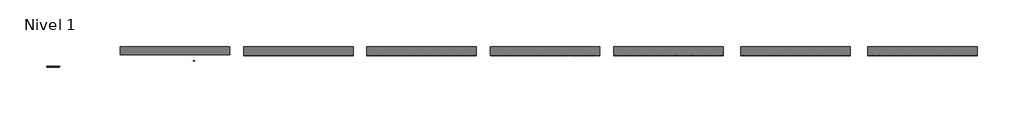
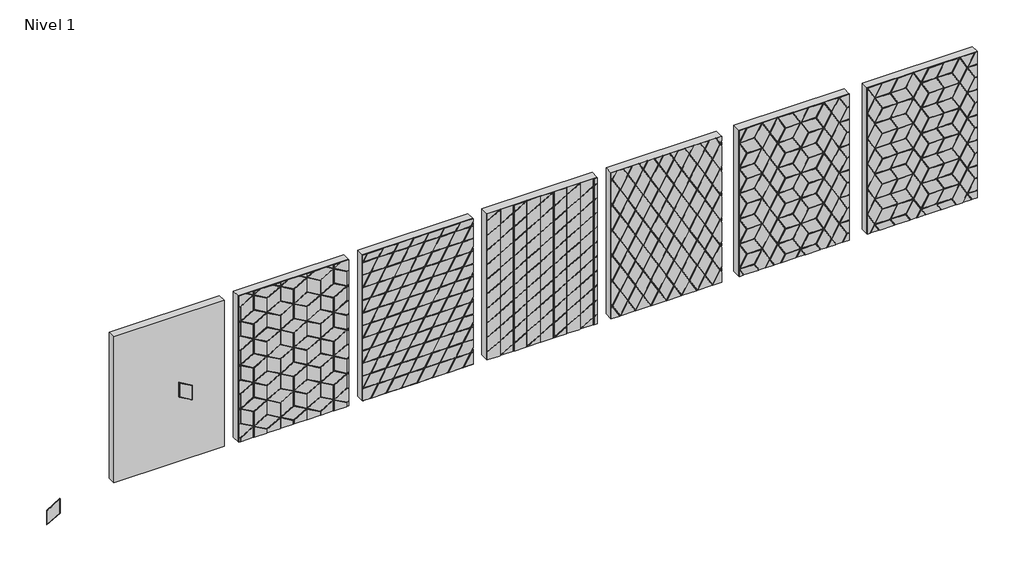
# One storey: 15 proxies.
"""IFC4 building model written with IfcOpenShell, lengths in millimetres."""

from ifc_helpers import new_model, si_unit, origin, place, context, project, spatial, transform, mapped, element, save
from components import generic_models_b56e176c, generic_models_d6408ce0, generic_models_3e0c5b4b, generic_models_ec62adf8, generic_models_64ce190c, generic_models_2b23b831, generic_models_af10a0f3, generic_models_e96d9af0, generic_models_ffa9f1a6, generic_models_63845ec4, generic_models_9c3d61d5, generic_models_e3781ae1, generic_models_b4bbd041, generic_models_f78b7b72, proxy_1_3dm_0daf05c3, proxy_2_3dm_ef0c58a9, proxy_3_3dm_4a09337f, proxy_4_3dm_49fde4f9, proxy_5_3dm_5162e69e, proxy_6_3dm_c16412cb, proxy_7_3dm_0c6f1c2f

model = new_model("IFC4")

# Units and contexts
model_context = context("Model", 3, world=origin())
ifc_project = project(units=[si_unit("LENGTHUNIT", "METRE", prefix="MILLI")], contexts=[model_context])

# Site, building, storey
site = spatial("IfcSite", under=ifc_project)
building = spatial("IfcBuilding", under=site)
storey = spatial("IfcBuildingStorey", under=building, Name="Nivel 1", Elevation=0.0)

# Proxies
placement = place(None, origin())
generic_models_shape = generic_models_b56e176c(model_context)
element("IfcBuildingElementProxy", 1, Name="Wall_Cissu 1.3dm", ObjectType="Wall_Cissu 1.3dm", at=placement, inside=storey, context=model_context, shape_type="MappedRepresentation", body=[
    mapped(generic_models_shape, transform((0.0, 0.0, 0.0), x_axis=(1.0, 0.0, 0.0), y_axis=(0.0, 1.0, 0.0), z_axis=(0.0, 0.0, 1.0))),
])
generic_models_2_shape = generic_models_d6408ce0(model_context)
element("IfcBuildingElementProxy", 2, Name="Wall_Cissu 2.3dm", ObjectType="Wall_Cissu 2.3dm", at=placement, inside=storey, context=model_context, shape_type="MappedRepresentation", body=[
    mapped(generic_models_2_shape, transform((0.0, 0.0, 0.0), x_axis=(1.0, 0.0, 0.0), y_axis=(0.0, 1.0, 0.0), z_axis=(0.0, 0.0, 1.0))),
])
generic_models_3_shape = generic_models_3e0c5b4b(model_context)
generic_models_4_shape = generic_models_ec62adf8(model_context)
element("IfcBuildingElementProxy", 3, Name="Wall_Cissu 4.3dm", ObjectType="Wall_Cissu 4.3dm", at=placement, inside=storey, context=model_context, shape_type="MappedRepresentation", body=[
    mapped(generic_models_3_shape, transform((0.0, 0.0, 0.0), x_axis=(1.0, 0.0, 0.0), y_axis=(0.0, 1.0, 0.0), z_axis=(0.0, 0.0, 1.0))),
    mapped(generic_models_4_shape, transform((0.0, 0.0, 0.0), x_axis=(1.0, 0.0, 0.0), y_axis=(0.0, 1.0, 0.0), z_axis=(0.0, 0.0, 1.0))),
])
generic_models_5_shape = generic_models_64ce190c(model_context)
generic_models_6_shape = generic_models_2b23b831(model_context)
element("IfcBuildingElementProxy", 4, Name="Wall_Cissu 5.3dm", ObjectType="Wall_Cissu 5.3dm", at=placement, inside=storey, context=model_context, shape_type="MappedRepresentation", body=[
    mapped(generic_models_5_shape, transform((0.0, 0.0, 0.0), x_axis=(1.0, 0.0, 0.0), y_axis=(0.0, 1.0, 0.0), z_axis=(0.0, 0.0, 1.0))),
    mapped(generic_models_6_shape, transform((0.0, 0.0, 0.0), x_axis=(1.0, 0.0, 0.0), y_axis=(0.0, 1.0, 0.0), z_axis=(0.0, 0.0, 1.0))),
])
generic_models_7_shape = generic_models_af10a0f3(model_context)
generic_models_8_shape = generic_models_e96d9af0(model_context)
element("IfcBuildingElementProxy", 5, Name="Wall_Cissu 6.3dm", ObjectType="Wall_Cissu 6.3dm", at=placement, inside=storey, context=model_context, shape_type="MappedRepresentation", body=[
    mapped(generic_models_7_shape, transform((0.0, 0.0, 0.0), x_axis=(1.0, 0.0, 0.0), y_axis=(0.0, 1.0, 0.0), z_axis=(0.0, 0.0, 1.0))),
    mapped(generic_models_8_shape, transform((0.0, 0.0, 0.0), x_axis=(1.0, 0.0, 0.0), y_axis=(0.0, 1.0, 0.0), z_axis=(0.0, 0.0, 1.0))),
])
generic_models_9_shape = generic_models_ffa9f1a6(model_context)
generic_models_10_shape = generic_models_63845ec4(model_context)
element("IfcBuildingElementProxy", 6, Name="Wall_Cissu 7.3dm", ObjectType="Wall_Cissu 7.3dm", at=placement, inside=storey, context=model_context, shape_type="MappedRepresentation", body=[
    mapped(generic_models_9_shape, transform((0.0, 0.0, 0.0), x_axis=(1.0, 0.0, 0.0), y_axis=(0.0, 1.0, 0.0), z_axis=(0.0, 0.0, 1.0))),
    mapped(generic_models_10_shape, transform((0.0, 0.0, 0.0), x_axis=(1.0, 0.0, 0.0), y_axis=(0.0, 1.0, 0.0), z_axis=(0.0, 0.0, 1.0))),
])
generic_models_11_shape = generic_models_9c3d61d5(model_context)
generic_models_12_shape = generic_models_e3781ae1(model_context)
element("IfcBuildingElementProxy", 7, Name="Wall_Cissu 8.3dm", ObjectType="Wall_Cissu 8.3dm", at=placement, inside=storey, context=model_context, shape_type="MappedRepresentation", body=[
    mapped(generic_models_11_shape, transform((0.0, 0.0, 0.0), x_axis=(1.0, 0.0, 0.0), y_axis=(0.0, 1.0, 0.0), z_axis=(0.0, 0.0, 1.0))),
    mapped(generic_models_12_shape, transform((0.0, 0.0, 0.0), x_axis=(1.0, 0.0, 0.0), y_axis=(0.0, 1.0, 0.0), z_axis=(0.0, 0.0, 1.0))),
])
generic_models_13_shape = generic_models_b4bbd041(model_context)
generic_models_14_shape = generic_models_f78b7b72(model_context)
element("IfcBuildingElementProxy", 8, Name="Wall_Cissu 9.3dm", ObjectType="Wall_Cissu 9.3dm", at=placement, inside=storey, context=model_context, shape_type="MappedRepresentation", body=[
    mapped(generic_models_13_shape, transform((0.0, 0.0, 0.0), x_axis=(1.0, 0.0, 0.0), y_axis=(0.0, 1.0, 0.0), z_axis=(0.0, 0.0, 1.0))),
    mapped(generic_models_14_shape, transform((0.0, 0.0, 0.0), x_axis=(1.0, 0.0, 0.0), y_axis=(0.0, 1.0, 0.0), z_axis=(0.0, 0.0, 1.0))),
])
proxy_1_3dm_shape = proxy_1_3dm_0daf05c3(model_context)
element("IfcBuildingElementProxy", 9, Name="1.3dm", ObjectType="1.3dm", at=placement, inside=storey, context=model_context, shape_type="MappedRepresentation", body=[
    mapped(proxy_1_3dm_shape, transform((0.0, 0.0, 0.0), x_axis=(1.0, 0.0, 0.0), y_axis=(0.0, 1.0, 0.0), z_axis=(0.0, 0.0, 1.0))),
])
proxy_2_3dm_shape = proxy_2_3dm_ef0c58a9(model_context)
element("IfcBuildingElementProxy", 10, Name="2.3dm", ObjectType="2.3dm", at=placement, inside=storey, context=model_context, shape_type="MappedRepresentation", body=[
    mapped(proxy_2_3dm_shape, transform((0.0, 0.0, 0.0), x_axis=(1.0, 0.0, 0.0), y_axis=(0.0, 1.0, 0.0), z_axis=(0.0, 0.0, 1.0))),
])
proxy_3_3dm_shape = proxy_3_3dm_4a09337f(model_context)
element("IfcBuildingElementProxy", 11, Name="3.3dm", ObjectType="3.3dm", at=placement, inside=storey, context=model_context, shape_type="MappedRepresentation", body=[
    mapped(proxy_3_3dm_shape, transform((0.0, 0.0, 0.0), x_axis=(1.0, 0.0, 0.0), y_axis=(0.0, 1.0, 0.0), z_axis=(0.0, 0.0, 1.0))),
])
proxy_4_3dm_shape = proxy_4_3dm_49fde4f9(model_context)
element("IfcBuildingElementProxy", 12, Name="4.3dm", ObjectType="4.3dm", at=placement, inside=storey, context=model_context, shape_type="MappedRepresentation", body=[
    mapped(proxy_4_3dm_shape, transform((0.0, 0.0, 0.0), x_axis=(1.0, 0.0, 0.0), y_axis=(0.0, 1.0, 0.0), z_axis=(0.0, 0.0, 1.0))),
])
proxy_5_3dm_shape = proxy_5_3dm_5162e69e(model_context)
element("IfcBuildingElementProxy", 13, Name="5.3dm", ObjectType="5.3dm", at=placement, inside=storey, context=model_context, shape_type="MappedRepresentation", body=[
    mapped(proxy_5_3dm_shape, transform((0.0, 0.0, 0.0), x_axis=(1.0, 0.0, 0.0), y_axis=(0.0, 1.0, 0.0), z_axis=(0.0, 0.0, 1.0))),
])
proxy_6_3dm_shape = proxy_6_3dm_c16412cb(model_context)
element("IfcBuildingElementProxy", 14, Name="6.3dm", ObjectType="6.3dm", at=placement, inside=storey, context=model_context, shape_type="MappedRepresentation", body=[
    mapped(proxy_6_3dm_shape, transform((0.0, 0.0, 0.0), x_axis=(1.0, 0.0, 0.0), y_axis=(0.0, 1.0, 0.0), z_axis=(0.0, 0.0, 1.0))),
])
proxy_7_3dm_shape = proxy_7_3dm_0c6f1c2f(model_context)
element("IfcBuildingElementProxy", 15, Name="7.3dm", ObjectType="7.3dm", at=placement, inside=storey, context=model_context, shape_type="MappedRepresentation", body=[
    mapped(proxy_7_3dm_shape, transform((0.0, 0.0, 0.0), x_axis=(1.0, 0.0, 0.0), y_axis=(0.0, 1.0, 0.0), z_axis=(0.0, 0.0, 1.0))),
])

save(model, "model.ifc")
